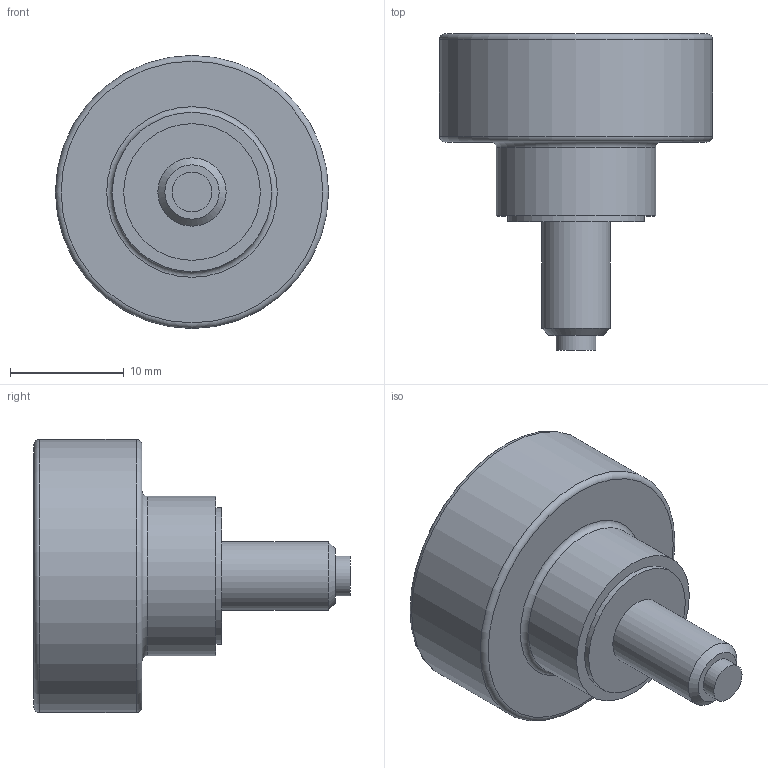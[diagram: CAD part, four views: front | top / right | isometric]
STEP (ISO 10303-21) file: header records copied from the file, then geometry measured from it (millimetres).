
FILE_DESCRIPTION( ( 'STEP AP203' ), '1' );
FILE_NAME( 'C:/Temp/Ganter_Step_05_03_2020/data/2_2/gn_421_10/Hollow knurled knob, with tip GN 421.10-M6-10-KU.stp', '2020-03-05T12:25:32', ( 'License CC BY-ND 4.0' ), ( 'CADENAS' ), ' ', 'PARTsolutions', ' ' );
FILE_SCHEMA( ( 'CONFIG_CONTROL_DESIGN' ) );
Length unit declared in the file: millimetre
Products named in the file (1): _Hollow knurled knob, with tip GN 421.10-M6-10-KU
Bounding box: 24 x 27.8 x 24 mm (x, y, z)
Volume: 3775.9 mm3; surface area: 2527.1 mm2
Topology: 1 solids, 1 shells, 19 faces, 30 edges, 19 vertices
Faces by surface type: plane 8, cylinder 7, torus 3, cone 1
Full cylindrical faces by diameter (mm): 3.5 x1, 6 x1, 10 x1, 12 x1, 14 x1, 20 x1, 24 x1
Entity records: 418 total; most frequent: DIRECTION 76, CARTESIAN_POINT 56, AXIS2_PLACEMENT_3D 38, EDGE_LOOP 36, ORIENTED_EDGE 36, FACE_OUTER_BOUND 29, ADVANCED_FACE 19, EDGE_CURVE 18
